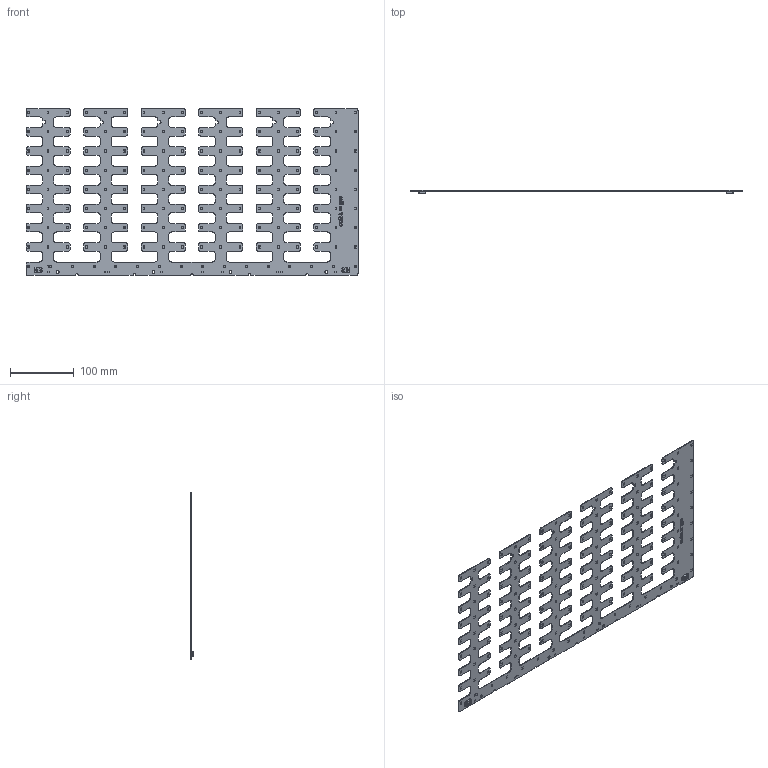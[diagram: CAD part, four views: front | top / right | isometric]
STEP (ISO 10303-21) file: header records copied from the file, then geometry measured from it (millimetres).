
FILE_DESCRIPTION(/* description */ ('Unknown'),/* implementation_level */ '2;1');
FILE_NAME(/* name */ 'RecLED 519x261mm 2500lm SELV sh-000 2021-07-22',/* time_stamp */ '2021-07-23T12:06:41+02:00',/* author */ ('Unknown'),/* organization */ ('Unknown'),/* preprocessor_version */ 'ST-DEVELOPER v16.7',/* originating_system */ 'Solid Edge',/* authorisation */ 'Unknown');
FILE_SCHEMA (('AUTOMOTIVE_DESIGN {1 0 10303 214 3 1 1}'));
Products named in the file (1): RecLED 519x261mm 2500lm SELV sh-000 2021-07-22
Bounding box: 519 x 4.5 x 261 mm (x, y, z)
Volume: 73202.2 mm3; surface area: 153710.7 mm2
Topology: 3 solids, 3 shells, 4608 faces, 12274 edges, 8068 vertices
Faces by surface type: plane 3669, cylinder 595, bspline 250, cone 52, torus 22, sphere 20
Full cylindrical faces by diameter (mm): 1.5 x1, 4.3 x4
Entity records: 180284 total; most frequent: CARTESIAN_POINT 34817, ORIENTED_EDGE 24434, DIRECTION 21281, EDGE_CURVE 12217, LINE 10243, VECTOR 10243, VERTEX_POINT 8054, AXIS2_PLACEMENT_3D 5519
